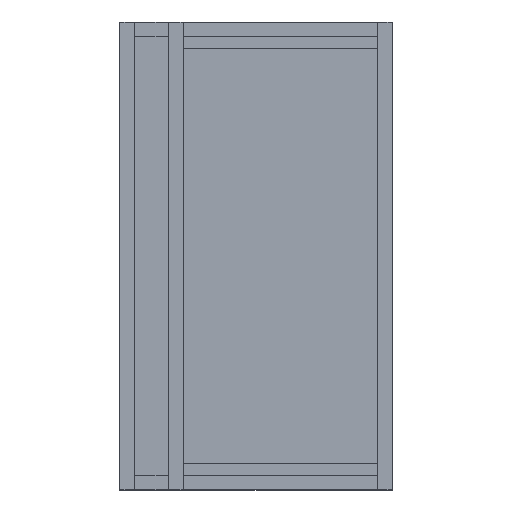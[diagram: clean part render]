
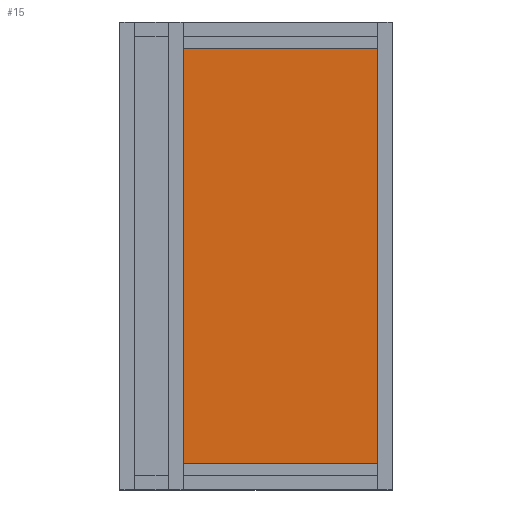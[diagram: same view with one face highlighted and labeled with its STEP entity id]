
A CAD part, top view. The second image highlights one B-rep face of the part: STEP entity #15.
In plain terms, the highlighted planar face has unit normal (0, 0, 1).
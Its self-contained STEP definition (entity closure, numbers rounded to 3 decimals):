
#15 = ADVANCED_FACE ( 'NONE', ( #981 ), #169, .F. ) ;
#63 = DIRECTION ( 'NONE',  ( -1., 0., 0. ) ) ;
#68 = CARTESIAN_POINT ( 'NONE',  ( -73.5, -55.082, 4. ) ) ;
#71 = CARTESIAN_POINT ( 'NONE',  ( 122.5, 445., 4. ) ) ;
#120 = DIRECTION ( 'NONE',  ( 0., 1., 0. ) ) ;
#137 = CARTESIAN_POINT ( 'NONE',  ( -73.5, 27., 4. ) ) ;
#145 = DIRECTION ( 'NONE',  ( 1., 0., 0. ) ) ;
#153 = VERTEX_POINT ( 'NONE', #219 ) ;
#169 = PLANE ( 'NONE',  #580 ) ;
#174 = VERTEX_POINT ( 'NONE', #137 ) ;
#178 = DIRECTION ( 'NONE',  ( 1., 0., 0. ) ) ;
#188 = CARTESIAN_POINT ( 'NONE',  ( 122.5, 27., 4. ) ) ;
#196 = CARTESIAN_POINT ( 'NONE',  ( -73.5, 445., 4. ) ) ;
#219 = CARTESIAN_POINT ( 'NONE',  ( -73.5, 445., 4. ) ) ;
#254 = VERTEX_POINT ( 'NONE', #188 ) ;
#314 = DIRECTION ( 'NONE',  ( 0., 1., 0. ) ) ;
#315 = CARTESIAN_POINT ( 'NONE',  ( -122.5, 0., 4. ) ) ;
#425 = CARTESIAN_POINT ( 'NONE',  ( 122.5, 0., 4. ) ) ;
#431 = CARTESIAN_POINT ( 'NONE',  ( -73.5, 27., 4. ) ) ;
#453 = VERTEX_POINT ( 'NONE', #71 ) ;
#457 = DIRECTION ( 'NONE',  ( 0., 0., -1. ) ) ;
#546 = EDGE_CURVE ( 'NONE', #153, #453, #859, .T. ) ;
#567 = EDGE_CURVE ( 'NONE', #254, #453, #806, .T. ) ;
#580 = AXIS2_PLACEMENT_3D ( 'NONE', #315, #457, #178 ) ;
#586 = EDGE_CURVE ( 'NONE', #174, #153, #708, .T. ) ;
#627 = EDGE_CURVE ( 'NONE', #254, #174, #719, .T. ) ;
#698 = VECTOR ( 'NONE', #314, 1000. ) ;
#708 = LINE ( 'NONE', #68, #698 ) ;
#719 = LINE ( 'NONE', #431, #721 ) ;
#721 = VECTOR ( 'NONE', #63, 1000. ) ;
#759 = VECTOR ( 'NONE', #120, 1000. ) ;
#806 = LINE ( 'NONE', #425, #759 ) ;
#815 = VECTOR ( 'NONE', #145, 1000. ) ;
#859 = LINE ( 'NONE', #196, #815 ) ;
#971 = ORIENTED_EDGE ( 'NONE', *, *, #567, .T. ) ;
#981 = FACE_OUTER_BOUND ( 'NONE', #982, .T. ) ;
#982 = EDGE_LOOP ( 'NONE', ( #1013, #971, #1056, #1022 ) ) ;
#1013 = ORIENTED_EDGE ( 'NONE', *, *, #627, .F. ) ;
#1022 = ORIENTED_EDGE ( 'NONE', *, *, #586, .F. ) ;
#1056 = ORIENTED_EDGE ( 'NONE', *, *, #546, .F. ) ;
